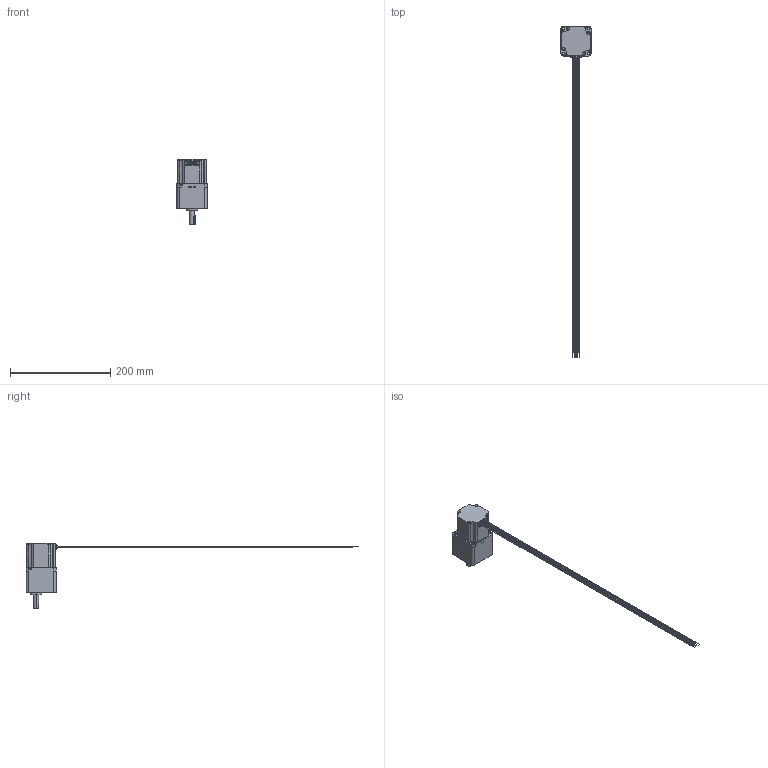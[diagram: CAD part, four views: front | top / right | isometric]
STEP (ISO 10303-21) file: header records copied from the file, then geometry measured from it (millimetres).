
FILE_DESCRIPTION (( 'STEP AP203' ), '1' );
FILE_NAME ('B1364A.STEP', '2017-05-19T04:57:14', ( 'om' ), ( 'Hewlett-Packard Company' ), 'SwSTEP 2.0', 'SolidWorks 2014', '' );
FILE_SCHEMA (( 'CONFIG_CONTROL_DESIGN' ));
Length unit declared in the file: millimetre
Products named in the file (1): B1364A
Bounding box: 60 x 663.2 x 130 mm (x, y, z)
Volume: 314120.7 mm3; surface area: 48600.3 mm2
Topology: 3 solids, 14 shells, 744 faces, 1900 edges, 1224 vertices
Faces by surface type: plane 578, cylinder 163, cone 3
Entity records: 22419 total; most frequent: CARTESIAN_POINT 4209, ORIENTED_EDGE 3800, DIRECTION 3638, EDGE_CURVE 1900, LINE 1548, VECTOR 1548, VERTEX_POINT 1224, AXIS2_PLACEMENT_3D 1045
